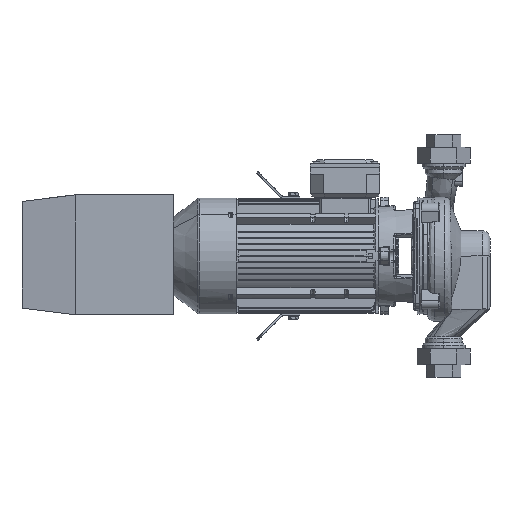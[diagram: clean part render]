
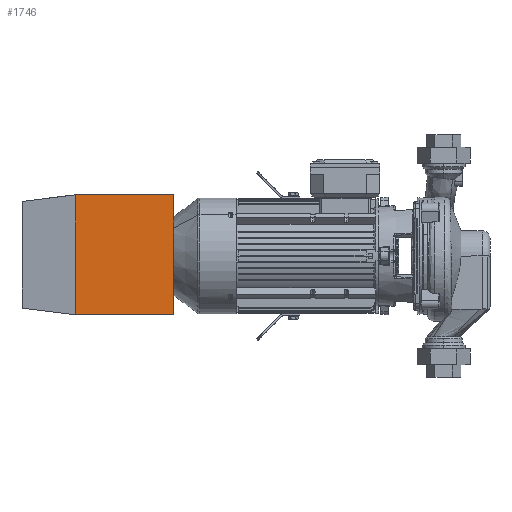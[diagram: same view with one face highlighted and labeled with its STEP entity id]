
A CAD part, left-side view. The second image highlights one B-rep face of the part: STEP entity #1746.
In plain terms, the highlighted planar face has unit normal (-1, 0, 0).
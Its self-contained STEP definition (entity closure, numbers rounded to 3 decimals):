
#1746=ADVANCED_FACE('',(#3124),#3125,.T.);
#1758=EDGE_CURVE('',#3144,#3141,#3145,.T.);
#3124=FACE_OUTER_BOUND('',#9034,.T.);
#3125=PLANE('',#9035);
#3141=VERTEX_POINT('',#9058);
#3144=VERTEX_POINT('',#9063);
#3145=LINE('',#9064,#9065);
#9034=EDGE_LOOP('',(#16443,#16444,#16445,#16446));
#9035=AXIS2_PLACEMENT_3D('',#16447,#16448,#16449);
#9058=CARTESIAN_POINT('',(-90.5,-114.0,0.0));
#9063=CARTESIAN_POINT('',(-90.5,34.0,0.0));
#9064=CARTESIAN_POINT('',(-90.5,114.0,0.0));
#9065=VECTOR('',#16462,1.0);
#16443=ORIENTED_EDGE('',*,*,#30653,.F.);
#16444=ORIENTED_EDGE('',*,*,#1758,.T.);
#16445=ORIENTED_EDGE('',*,*,#30668,.T.);
#16446=ORIENTED_EDGE('',*,*,#30670,.T.);
#16447=CARTESIAN_POINT('',(-90.5,0.0,0.0));
#16448=DIRECTION('',(-1.0,0.0,0.0));
#16449=DIRECTION('',(0.0,-1.0,0.0));
#16462=DIRECTION('',(0.0,-1.0,0.0));
#30653=EDGE_CURVE('',#3144,#49961,#49972,.T.);
#30668=EDGE_CURVE('',#3141,#49988,#49990,.T.);
#30670=EDGE_CURVE('',#49988,#49961,#49992,.T.);
#49961=VERTEX_POINT('',#60224);
#49972=LINE('',#60241,#60242);
#49988=VERTEX_POINT('',#60265);
#49990=LINE('',#60268,#60269);
#49992=LINE('',#60271,#60272);
#60224=CARTESIAN_POINT('',(-90.5,34.0,181.0));
#60241=CARTESIAN_POINT('',(-90.5,34.0,0.0));
#60242=VECTOR('',#70796,1.0);
#60265=CARTESIAN_POINT('',(-90.5,-114.0,181.0));
#60268=CARTESIAN_POINT('',(-90.5,-114.0,0.0));
#60269=VECTOR('',#70805,1.0);
#60271=CARTESIAN_POINT('',(-90.5,114.0,181.0));
#60272=VECTOR('',#70806,1.0);
#70796=DIRECTION('',(0.0,0.0,1.0));
#70805=DIRECTION('',(0.0,0.0,1.0));
#70806=DIRECTION('',(0.0,1.0,0.0));
